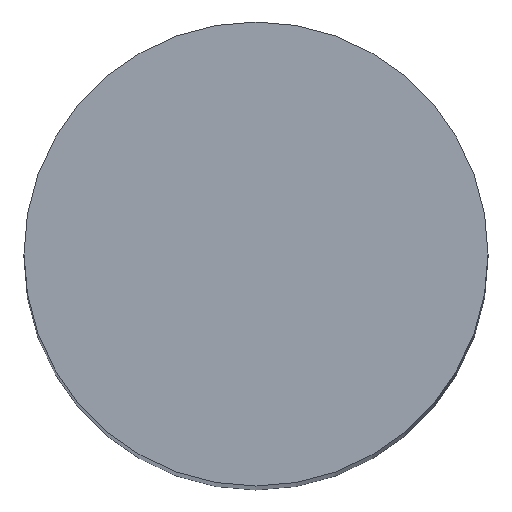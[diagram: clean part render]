
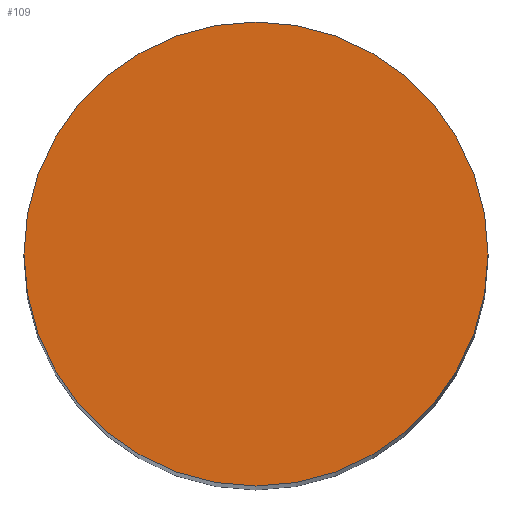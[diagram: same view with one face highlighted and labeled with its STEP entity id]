
A CAD part, top view. The second image highlights one B-rep face of the part: STEP entity #109.
In plain terms, the highlighted planar face has unit normal (0, 0, 1).
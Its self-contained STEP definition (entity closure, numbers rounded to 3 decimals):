
#24 = VERTEX_POINT('',#25);
#25 = CARTESIAN_POINT('',(1.5,0.,14.765));
#32 = CYLINDRICAL_SURFACE('',#33,1.5);
#33 = AXIS2_PLACEMENT_3D('',#34,#35,#36);
#34 = CARTESIAN_POINT('',(0.,0.,0.));
#35 = DIRECTION('',(-0.,-0.,-1.));
#36 = DIRECTION('',(1.,0.,-0.));
#51 = EDGE_CURVE('',#24,#24,#52,.T.);
#52 = SURFACE_CURVE('',#53,(#58,#65),.PCURVE_S1.);
#53 = CIRCLE('',#54,1.5);
#54 = AXIS2_PLACEMENT_3D('',#55,#56,#57);
#55 = CARTESIAN_POINT('',(0.,0.,14.765));
#56 = DIRECTION('',(0.,0.,1.));
#57 = DIRECTION('',(1.,0.,-0.));
#58 = PCURVE('',#32,#59);
#59 = DEFINITIONAL_REPRESENTATION('',(#60),#64);
#60 = LINE('',#61,#62);
#61 = CARTESIAN_POINT('',(-0.,-14.765));
#62 = VECTOR('',#63,1.);
#63 = DIRECTION('',(-1.,0.));
#64 = ( GEOMETRIC_REPRESENTATION_CONTEXT(2) 
PARAMETRIC_REPRESENTATION_CONTEXT() REPRESENTATION_CONTEXT('2D SPACE',''
  ) );
#65 = PCURVE('',#66,#71);
#66 = PLANE('',#67);
#67 = AXIS2_PLACEMENT_3D('',#68,#69,#70);
#68 = CARTESIAN_POINT('',(0.,0.,
    14.765));
#69 = DIRECTION('',(0.,0.,1.));
#70 = DIRECTION('',(1.,0.,-0.));
#71 = DEFINITIONAL_REPRESENTATION('',(#72),#76);
#72 = CIRCLE('',#73,1.5);
#73 = AXIS2_PLACEMENT_2D('',#74,#75);
#74 = CARTESIAN_POINT('',(0.,0.));
#75 = DIRECTION('',(1.,0.));
#76 = ( GEOMETRIC_REPRESENTATION_CONTEXT(2) 
PARAMETRIC_REPRESENTATION_CONTEXT() REPRESENTATION_CONTEXT('2D SPACE',''
  ) );
#109 = ADVANCED_FACE('',(#110),#66,.T.);
#110 = FACE_BOUND('',#111,.T.);
#111 = EDGE_LOOP('',(#112));
#112 = ORIENTED_EDGE('',*,*,#51,.T.);
